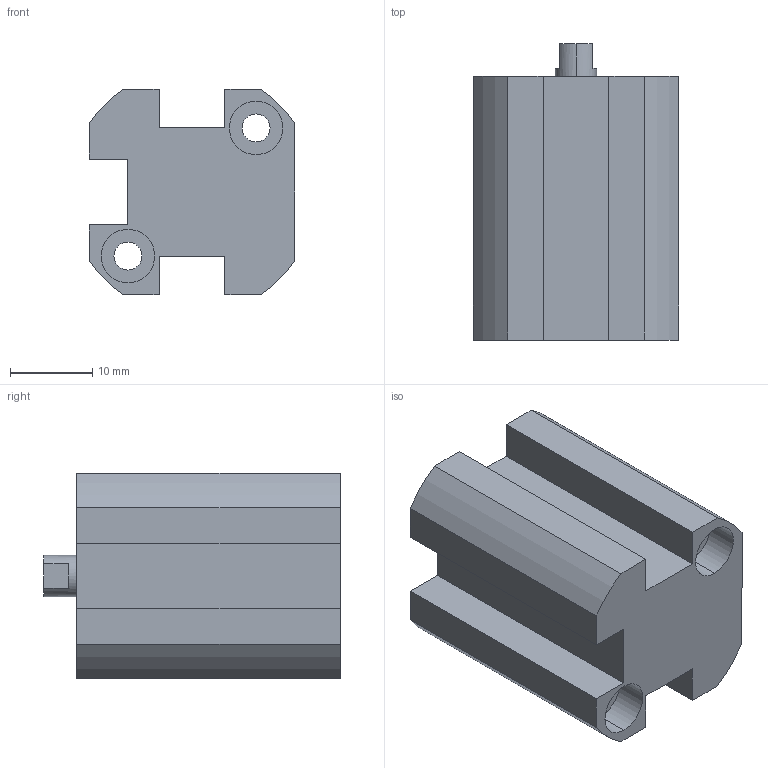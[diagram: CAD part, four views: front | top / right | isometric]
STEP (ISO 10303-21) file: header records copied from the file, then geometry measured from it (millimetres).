
FILE_DESCRIPTION (( 'STEP AP203' ), '1' );
FILE_NAME ('XC#1-10D-10.STEP', '2016-05-23T07:15:06', ( '' ), ( '' ), 'SwSTEP 2.0', 'SolidWorks 2014', '' );
FILE_SCHEMA (( 'CONFIG_CONTROL_DESIGN' ));
Length unit declared in the file: millimetre
Products named in the file (1): XC#1-10D-10
Bounding box: 25 x 36 x 25 mm (x, y, z)
Volume: 14127.6 mm3; surface area: 5971.9 mm2
Topology: 1 solids, 1 shells, 72 faces, 177 edges, 116 vertices
Faces by surface type: cylinder 37, plane 33, cone 2
Entity records: 2227 total; most frequent: DIRECTION 400, CARTESIAN_POINT 364, ORIENTED_EDGE 350, EDGE_CURVE 175, AXIS2_PLACEMENT_3D 152, VERTEX_POINT 116, LINE 96, VECTOR 96
